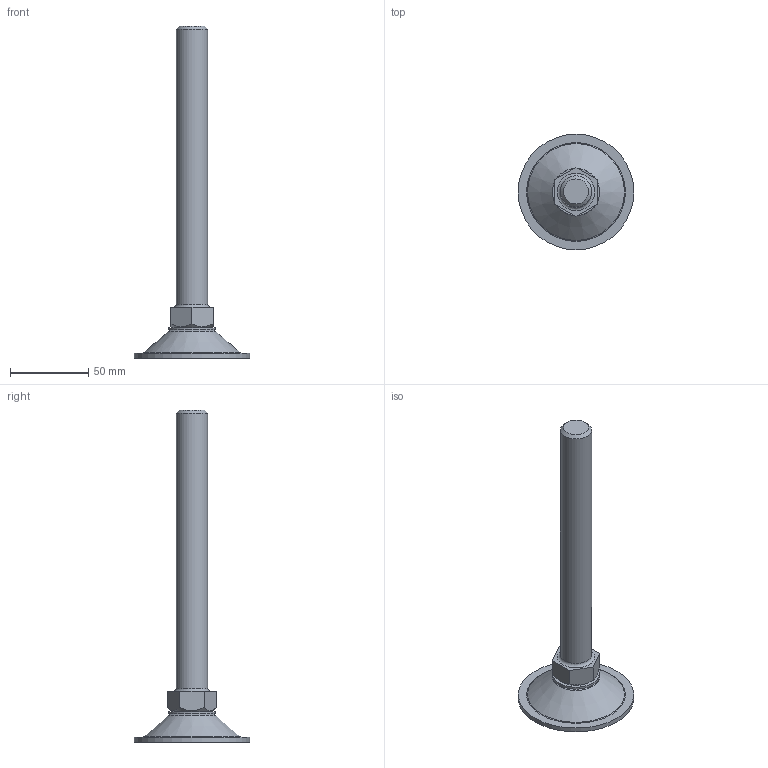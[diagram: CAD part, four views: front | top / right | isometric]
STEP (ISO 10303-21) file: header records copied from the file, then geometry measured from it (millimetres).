
FILE_DESCRIPTION(/* description */ (''),/* implementation_level */ '2;1');
FILE_NAME(/* name */ 'D:\조절자\PF\PF-M20-180L.stp',/* time_stamp */ '2016-03-14T14:54:28+09:00',/* author */ ('GS-DT-1-001'),/* organization */ (''),/* preprocessor_version */ 'ST-DEVELOPER v15.6',/* originating_system */ 'Autodesk Inventor LT ',/* authorisation */ '');
FILE_SCHEMA (('AUTOMOTIVE_DESIGN { 1 0 10303 214 3 1 1 }'));
Length unit declared in the file: millimetre
Products named in the file (1): PF-M20-180L
Bounding box: 74 x 74 x 212.5 mm (x, y, z)
Volume: 80073.1 mm3; surface area: 26132.5 mm2
Topology: 3 solids, 3 shells, 31 faces, 62 edges, 41 vertices
Faces by surface type: plane 16, cylinder 6, torus 5, cone 4
Full cylindrical faces by diameter (mm): 7.153 x1, 8.2 x1, 8.8 x1, 20 x1, 30 x1, 74 x1
Entity records: 706 total; most frequent: DIRECTION 122, CARTESIAN_POINT 120, ORIENTED_EDGE 82, AXIS2_PLACEMENT_3D 55, EDGE_LOOP 54, EDGE_CURVE 41, VERTEX_POINT 35, FACE_OUTER_BOUND 31
